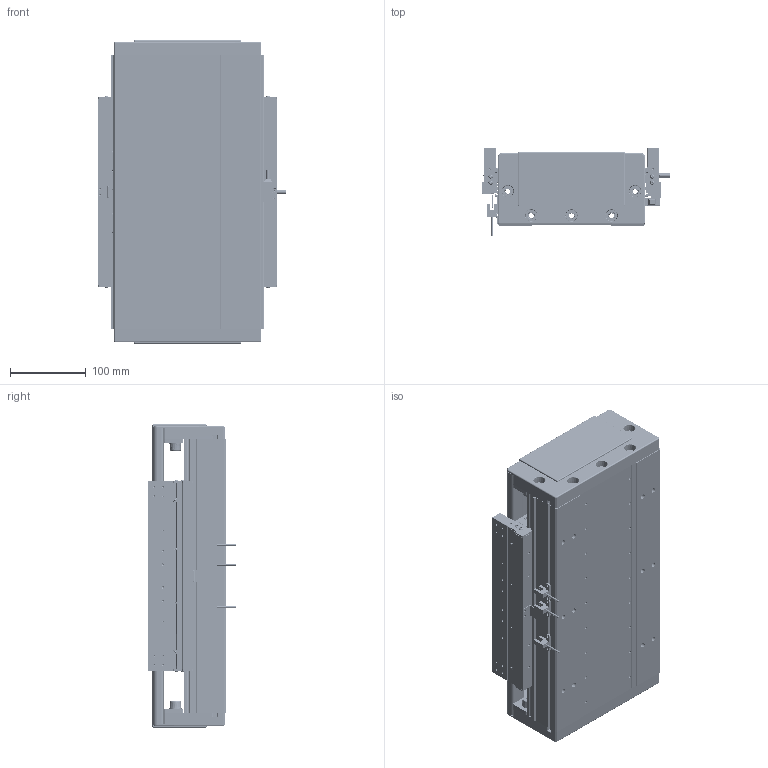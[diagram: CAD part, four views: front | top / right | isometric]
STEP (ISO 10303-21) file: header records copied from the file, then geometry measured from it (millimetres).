
FILE_DESCRIPTION (( 'STEP AP203' ), '1' );
FILE_NAME ('DA-C195-C3-T60-C010-0.2 眻盄萇儂.STEP', '2025-08-15T01:46:05', ( '' ), ( '' ), 'SwSTEP 2.0', 'SolidWorks 2019', '' );
FILE_SCHEMA (( 'CONFIG_CONTROL_DESIGN' ));
Length unit declared in the file: millimetre
Products named in the file (12): DA-C195-C3-T60-C010-0.2 眻盄萇儂; 66156-0001-003-00 裔啣; CU195-C3賑輸-俋楷; PM-T45ㄗ侂狟ㄘ; DA195-DG-H-00  端盖（压铸镂空版）; DA165-GYP-00 光电感应片(默认); 葩璃 DA95-GT-T-00; IU-CU195-L 菁釱絳寢; LMT黍杅芛; IU-CU195-L-00 菁釱(L360); DA95-HXJ-00 遣喳砎蝶; MS200 棠掑喜S315-T240
Assembly tree (20 placements, depth 3):
  DA-C195-C3-T60-C010-0.2 眻盄萇儂
    IU-CU195-L 菁釱絳寢
      IU-CU195-L-00 菁釱(L360)
      葩璃 DA95-GT-T-00  x4
    LMT黍杅芛
    MS200 棠掑喜S315-T240
    PM-T45ㄗ侂狟ㄘ  x3
    DA165-GYP-00 光电感应片(默认)
    DA195-DG-H-00  端盖（压铸镂空版）  x2
    DA95-HXJ-00 遣喳砎蝶  x4
    66156-0001-003-00 裔啣
    CU195-C3賑輸-俋楷
Bounding box: 248 x 115.6 x 400 mm (x, y, z)
Volume: 4152947.2 mm3; surface area: 1126714.8 mm2
Topology: 78 solids, 118 shells, 4855 faces, 12040 edges, 7251 vertices
Faces by surface type: cylinder 1936, plane 1585, bspline 710, cone 544, torus 44, sphere 36
Entity records: 126407 total; most frequent: CARTESIAN_POINT 37769, ORIENTED_EDGE 18166, DIRECTION 18014, EDGE_CURVE 9083, AXIS2_PLACEMENT_3D 6675, VERTEX_POINT 5681, VECTOR 4664, LINE 4664
